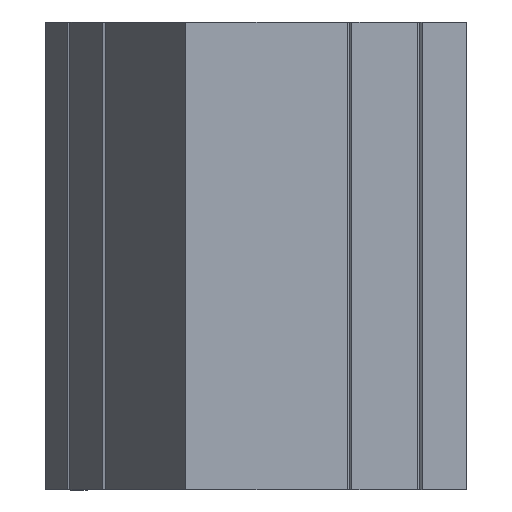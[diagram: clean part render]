
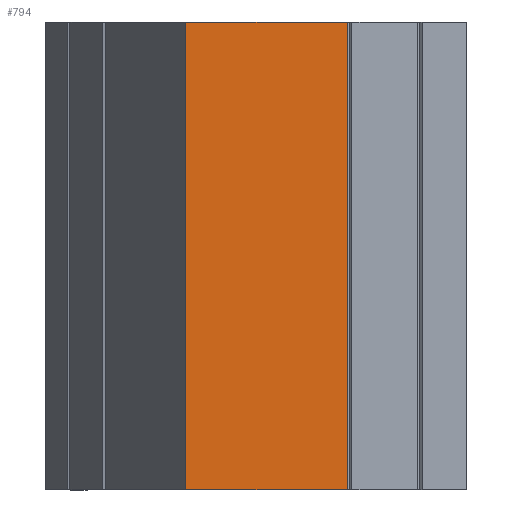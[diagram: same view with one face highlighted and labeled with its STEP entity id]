
A CAD part, front view. The second image highlights one B-rep face of the part: STEP entity #794.
In plain terms, the highlighted planar face has unit normal (0, -1, 0).
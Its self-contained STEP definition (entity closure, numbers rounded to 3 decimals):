
#29 = CARTESIAN_POINT ( 'NONE',  ( 0., 0., 50. ) ) ;
#72 = LINE ( 'NONE', #556, #520 ) ;
#117 = AXIS2_PLACEMENT_3D ( 'NONE', #1150, #679, #392 ) ;
#176 = ORIENTED_EDGE ( 'NONE', *, *, #257, .T. ) ;
#197 = VECTOR ( 'NONE', #662, 1000. ) ;
#252 = EDGE_CURVE ( 'NONE', #485, #372, #281, .T. ) ;
#257 = EDGE_CURVE ( 'NONE', #821, #414, #72, .T. ) ;
#275 = CARTESIAN_POINT ( 'NONE',  ( 9.033, 0., 50. ) ) ;
#281 = LINE ( 'NONE', #1123, #197 ) ;
#292 = FACE_OUTER_BOUND ( 'NONE', #903, .T. ) ;
#372 = VERTEX_POINT ( 'NONE', #753 ) ;
#392 = DIRECTION ( 'NONE',  ( 0., 0., -1. ) ) ;
#414 = VERTEX_POINT ( 'NONE', #1152 ) ;
#415 = ORIENTED_EDGE ( 'NONE', *, *, #789, .T. ) ;
#482 = ORIENTED_EDGE ( 'NONE', *, *, #560, .F. ) ;
#485 = VERTEX_POINT ( 'NONE', #29 ) ;
#487 = PLANE ( 'NONE',  #117 ) ;
#492 = CARTESIAN_POINT ( 'NONE',  ( 34.5, 0., -50. ) ) ;
#520 = VECTOR ( 'NONE', #1019, 1000. ) ;
#556 = CARTESIAN_POINT ( 'NONE',  ( 34.5, 0., 0. ) ) ;
#560 = EDGE_CURVE ( 'NONE', #485, #414, #771, .T. ) ;
#611 = ORIENTED_EDGE ( 'NONE', *, *, #252, .T. ) ;
#640 = LINE ( 'NONE', #1030, #1079 ) ;
#662 = DIRECTION ( 'NONE',  ( 0., 0., -1. ) ) ;
#679 = DIRECTION ( 'NONE',  ( 0., -1., 0. ) ) ;
#753 = CARTESIAN_POINT ( 'NONE',  ( 0., 0., -50. ) ) ;
#762 = VECTOR ( 'NONE', #953, 1000. ) ;
#771 = LINE ( 'NONE', #275, #762 ) ;
#789 = EDGE_CURVE ( 'NONE', #372, #821, #640, .T. ) ;
#794 = ADVANCED_FACE ( 'NONE', ( #292 ), #487, .T. ) ;
#821 = VERTEX_POINT ( 'NONE', #492 ) ;
#903 = EDGE_LOOP ( 'NONE', ( #611, #415, #176, #482 ) ) ;
#953 = DIRECTION ( 'NONE',  ( 1., 0., 0. ) ) ;
#1019 = DIRECTION ( 'NONE',  ( 0., 0., 1. ) ) ;
#1030 = CARTESIAN_POINT ( 'NONE',  ( 9.033, 0., -50. ) ) ;
#1037 = DIRECTION ( 'NONE',  ( 1., 0., 0. ) ) ;
#1079 = VECTOR ( 'NONE', #1037, 1000. ) ;
#1123 = CARTESIAN_POINT ( 'NONE',  ( 0., 0., 0. ) ) ;
#1150 = CARTESIAN_POINT ( 'NONE',  ( 60., 0., 0. ) ) ;
#1152 = CARTESIAN_POINT ( 'NONE',  ( 34.5, 0., 50. ) ) ;
